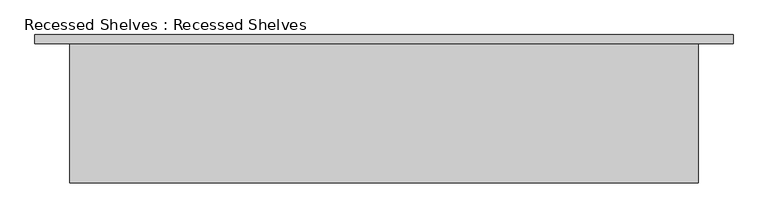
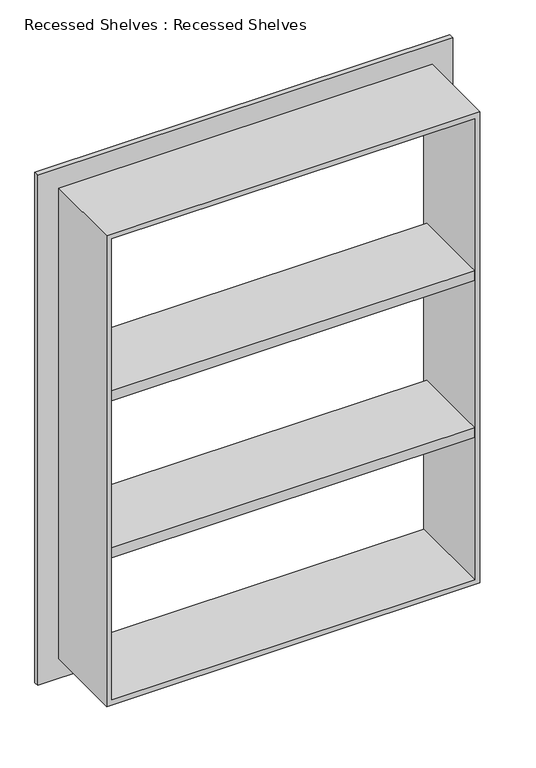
"""IFC4 building model written with IfcOpenShell, lengths in millimetres: furniture geometry, Recessed Shelves : Recessed Shelves."""

from ifc_helpers import new_model, si_unit, frame, origin, place, context, project, spatial, polyline, outline, extrude, faceted_brep, source, transform, mapped, element, save


def recessed_shelves_recessed_shelves_966c772e(model_context):
    return source(origin(), model_context, "Body", "SolidModel", [
        faceted_brep([(-457.2, -88.9, 2143.2951342), (-457.2, 114.3, 2143.2951342), (-457.2, 114.3, 924.0951342), (-457.2, -88.9, 924.0951342), (-508.0, 114.3, 2194.0951342), (-508.0, 114.3, 873.2951342), (508.0, 114.3, 873.2951342), (508.0, 114.3, 2194.0951342), (457.2, 114.3, 2143.2951342), (457.2, 114.3, 924.0951342), (457.2, -88.9, 924.0951342), (457.2, -88.9, 2143.2951342), (444.5, -88.9, 2130.5951342), (444.5, -88.9, 936.7951342), (-444.5, -88.9, 936.7951342), (-444.5, -88.9, 2130.5951342), (-444.5, 127.0, 2130.5951342), (-444.5, 127.0, 936.7951342), (444.5, 127.0, 936.7951342), (508.0, 127.0, 2194.0951342), (508.0, 127.0, 873.2951342), (-508.0, 127.0, 873.2951342), (-508.0, 127.0, 2194.0951342), (444.5, 127.0, 2130.5951342)], [[[0, 1, 2, 3]], [[4, 5, 6, 7], [8, 9, 2, 1]], [[3, 2, 9, 10]], [[0, 3, 10, 11], [12, 13, 14, 15]], [[16, 15, 14, 17]], [[17, 14, 13, 18]], [[19, 20, 21, 22], [16, 17, 18, 23]], [[4, 22, 21, 5]], [[5, 21, 20, 6]], [[10, 9, 8, 11]], [[18, 13, 12, 23]], [[6, 20, 19, 7]], [[11, 8, 1, 0]], [[23, 12, 15, 16]], [[7, 19, 22, 4]]]),
        extrude(outline(polyline([(444.5, -88.9), (-444.5, -88.9), (-444.5, 114.3), (444.5, 114.3), (444.5, -88.9)])), frame((0.0, 0.0, 1305.0951342), z_axis=(0.0, 0.0, 1.0), x_axis=(1.0, 0.0, 0.0)), (0.0, 0.0, 1.0), 25.4),
        extrude(outline(polyline([(444.5, -88.9), (-444.5, -88.9), (-444.5, 114.3), (444.5, 114.3), (444.5, -88.9)])), frame((0.0, 0.0, 1711.4951342), z_axis=(0.0, 0.0, 1.0), x_axis=(1.0, 0.0, 0.0)), (0.0, 0.0, 1.0), 25.4),
    ])


if __name__ == "__main__":
    model = new_model("IFC4")
    model_context = context("Model", 3, world=origin())
    ifc_project = project(units=[si_unit("LENGTHUNIT", "METRE", prefix="MILLI")], contexts=[model_context])
    site = spatial("IfcSite", under=ifc_project)
    building = spatial("IfcBuilding", under=site)
    placement = place(None, origin())
    recessed_shelves_recessed_shelves_shape = recessed_shelves_recessed_shelves_966c772e(model_context)
    element("IfcFurniture", 1, ObjectType="Recessed Shelves : Recessed Shelves", at=placement, inside=building, context=model_context, shape_type="MappedRepresentation", body=[
        mapped(recessed_shelves_recessed_shelves_shape, transform((0.0, 0.0, 0.0), x_axis=(1.0, 0.0, 0.0), y_axis=(0.0, 1.0, 0.0), z_axis=(0.0, 0.0, 1.0))),
    ])
    save(model, "model.ifc")
